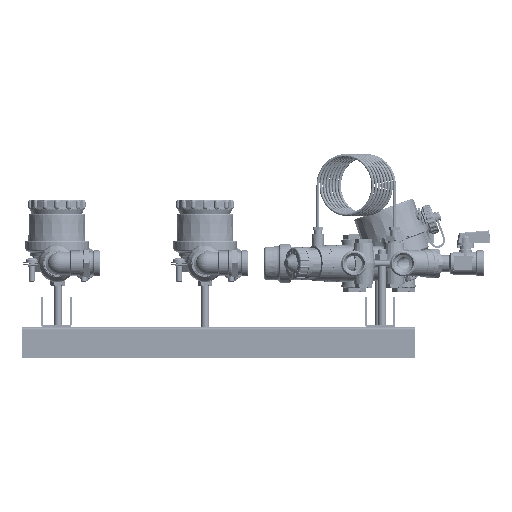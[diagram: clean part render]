
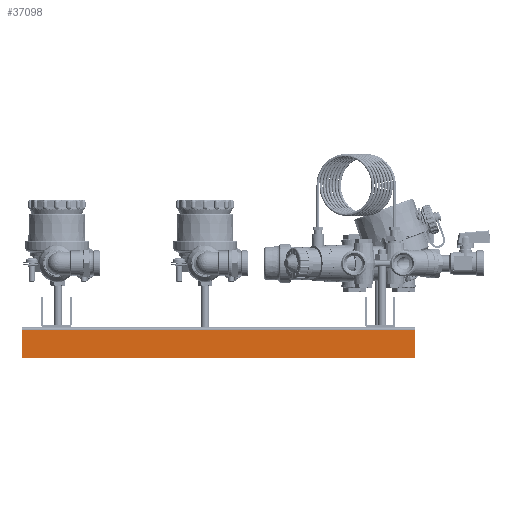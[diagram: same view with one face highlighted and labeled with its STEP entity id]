
A CAD part, front view. The second image highlights one B-rep face of the part: STEP entity #37098.
In plain terms, the highlighted planar face has unit normal (0, -1, 0) as drawn and (1, 0, 0) by its records, which use the part's own axes.
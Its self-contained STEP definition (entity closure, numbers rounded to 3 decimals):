
#37098=ADVANCED_FACE('',(#205343),#205345,.T.);
#205343=FACE_BOUND('',#205344,.T.);
#205344=EDGE_LOOP('',(#301586,#301587,#301588,#301589));
#205345=PLANE('',#205346);
#205346=AXIS2_PLACEMENT_3D('',#205347,#205348,#205349);
#205347=CARTESIAN_POINT('',(15.5,-400.,-2.5));
#205348=DIRECTION('',(1.,0.,0.));
#205349=DIRECTION('',(0.,0.,-1.));
#301586=ORIENTED_EDGE('',*,*,#350586,.T.);
#301587=ORIENTED_EDGE('',*,*,#350614,.T.);
#301588=ORIENTED_EDGE('',*,*,#350604,.F.);
#301589=ORIENTED_EDGE('',*,*,#350611,.F.);
#350586=EDGE_CURVE('',#412130,#412127,#412131,.T.);
#350604=EDGE_CURVE('',#412159,#412161,#412162,.T.);
#350611=EDGE_CURVE('',#412130,#412159,#412169,.T.);
#350614=EDGE_CURVE('',#412127,#412161,#412172,.T.);
#412127=VERTEX_POINT('',#681049);
#412130=VERTEX_POINT('',#681054);
#412131=LINE('',#681055,#681056);
#412159=VERTEX_POINT('',#681124);
#412161=VERTEX_POINT('',#681129);
#412162=LINE('',#681130,#681131);
#412169=LINE('',#681151,#681152);
#412172=LINE('',#681160,#681161);
#681049=CARTESIAN_POINT('',(15.5,-400.,-31.2));
#681054=CARTESIAN_POINT('',(15.5,-400.,-2.5));
#681055=CARTESIAN_POINT('',(15.5,-400.,-2.5));
#681056=VECTOR('',#681057,1.);
#681057=DIRECTION('',(0.,0.,-1.));
#681124=CARTESIAN_POINT('',(15.5,0.,-2.5));
#681129=CARTESIAN_POINT('',(15.5,0.,-31.2));
#681130=CARTESIAN_POINT('',(15.5,0.,-2.5));
#681131=VECTOR('',#681132,1.);
#681132=DIRECTION('',(0.,0.,-1.));
#681151=CARTESIAN_POINT('',(15.5,-400.,-2.5));
#681152=VECTOR('',#681153,1.);
#681153=DIRECTION('',(0.,1.,0.));
#681160=CARTESIAN_POINT('',(15.5,-400.,-31.2));
#681161=VECTOR('',#681162,1.);
#681162=DIRECTION('',(0.,1.,0.));
